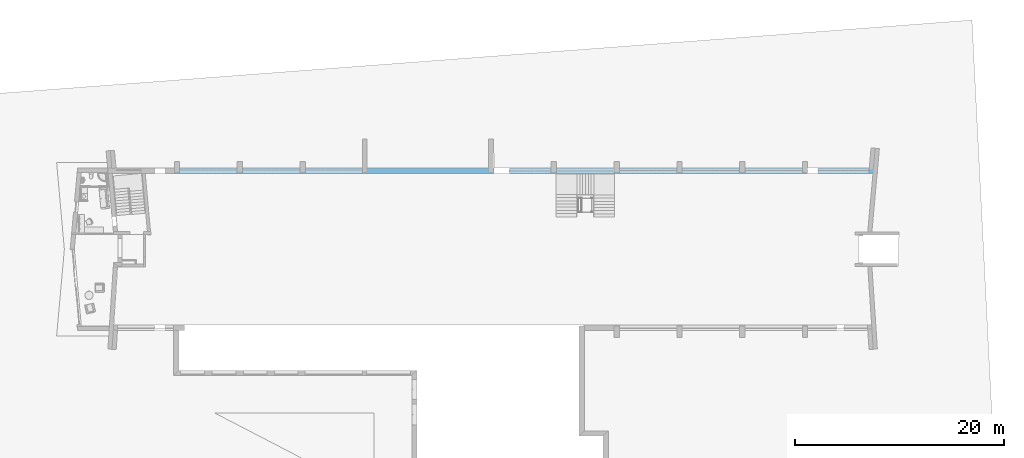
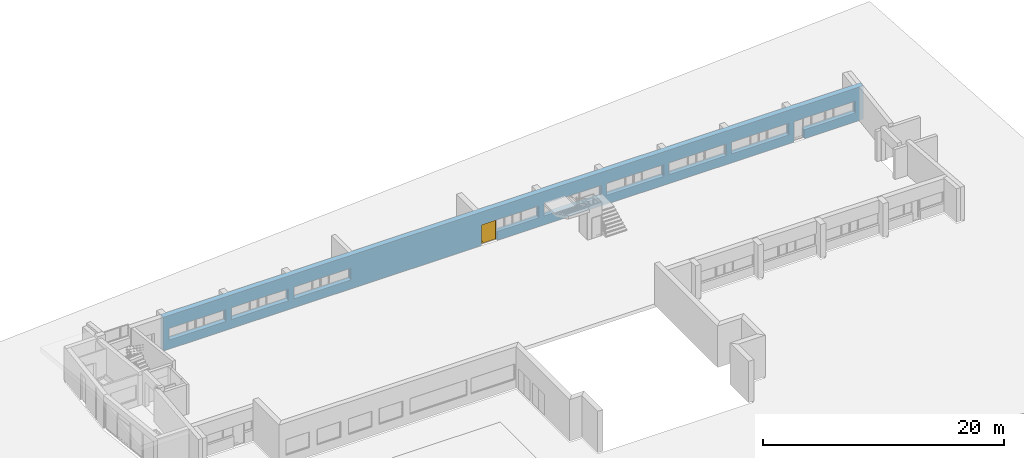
# One storey, part 26 of 36: 1 door, 20 openings, plus 1 element that does not belong to this part.
"""IFC2X3 building model written with IfcOpenShell, lengths in millimetres."""

from ifc_helpers import new_model, entity, si_unit, converted_unit, money_unit, direction, frame, origin_with_axes, place, context, subcontext, project, spatial, polyline, outline, extrude, open_shell, faceted_brep, surface_model, material, material_list, layer, layer_set, layer_usage, type_object, element, fill, save


model = new_model("IFC2X3")

# Units and contexts
model_context = context("Model", 3, precision=1e-05, world=origin_with_axes(), true_north=direction((0.0, 1.0)))
body_context = subcontext(model_context, "Body", "Model", "MODEL_VIEW")
ifc_project = project(units=[si_unit("LENGTHUNIT", "METRE", prefix="MILLI"), si_unit("AREAUNIT", "SQUARE_METRE"), si_unit("VOLUMEUNIT", "CUBIC_METRE"), converted_unit("PLANEANGLEUNIT", "DEGREE", entity("IfcPlaneAngleMeasure", 0.0174532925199), si_unit("PLANEANGLEUNIT", "RADIAN"), dimensions=[0, 0, 0, 0, 0, 0, 0]), si_unit("SOLIDANGLEUNIT", "STERADIAN"), money_unit("USD"), converted_unit("TIMEUNIT", "Year", entity("IfcTimeMeasure", 31556926.0), si_unit("TIMEUNIT", "SECOND"), dimensions=[0, 0, 0, 0, 0, 0, 0]), si_unit("MASSUNIT", "GRAM"), si_unit("THERMODYNAMICTEMPERATUREUNIT", "DEGREE_CELSIUS"), si_unit("LUMINOUSINTENSITYUNIT", "LUMEN")], contexts=[model_context])

# Site, building, storey
site_placement = place(None, origin_with_axes())
site = spatial("IfcSite", under=ifc_project, at=site_placement, Name="Site", CompositionType="ELEMENT")
building_placement = place(site_placement, origin_with_axes())
building = spatial("IfcBuilding", under=site, at=building_placement, Name="Building", CompositionType="ELEMENT")
storey_placement = place(building_placement, frame((0.0, 0.0, -3400.0), z_axis=(0.0, 0.0, 1.0), x_axis=(1.0, 0.0, 0.0)))
storey = spatial("IfcBuildingStorey", under=building, at=storey_placement, Name="1KORRUS", CompositionType="ELEMENT", Elevation=-3400.0)

# Wall, openings, door
ifc_material_1 = material(Name="Olemasolevad seinad tellis, uus viimistlus")
ifc_layer = layer(ifc_material_1, 500.0, ventilated="UNKNOWN")
ifc_layer_set = layer_set([ifc_layer], Name="Olemasolevad seinad tellis, uus viimistlus 500")
ifc_layer_usage = layer_usage(ifc_layer_set, "AXIS2", "POSITIVE", -100.0)
wall_type = type_object("IfcWallType", Name="Olemasolevad seinad tellis, uus viimistlus 500", PredefinedType="NOTDEFINED")
wall_placement = place(storey_placement, frame((-48393.8274049, -5039.6041088, 0.0), z_axis=(0.0, 0.0, 1.0), x_axis=(1.0, 0.0, 0.0)))
wall = element("IfcWallStandardCase", 1, at=wall_placement, inside=storey, type_object=wall_type, material=ifc_layer_usage, Name="VS1", ObjectType="VS1", context=body_context, shape_type="SweptSolid", body=[
    extrude(outline(polyline([(0.0, -100.0), (67149.8194303, -100.0), (67149.8194303, 400.0), (0.0, 400.0), (0.0, -100.0)])), origin_with_axes(), (0.0, 0.0, 1.0), 3400.0),
])
opening_1_placement = place(wall_placement, frame((1878.53070154, 0.0, 900.0), z_axis=(0.0, 0.0, 1.0), x_axis=(1.0, 0.0, 0.0)))
element("IfcOpeningElement", 2, at=opening_1_placement, cuts=wall, Name="Olemasolevad aknad jäävad", context=body_context, shape_type="SweptSolid", body=[
    extrude(outline(polyline([(-1375.0, 1200.0), (-1375.0, 0.0), (1375.0, 0.0), (1375.0, 1200.0), (-1375.0, 1200.0)])), frame((0.0, 250.0, 0.0), z_axis=(0.0, -1.0, 0.0), x_axis=(1.0, 0.0, 0.0)), (0.0, 0.0, 1.0), 850.0),
    extrude(outline(polyline([(-1375.0, 0.0), (-1375.0, -1200.0), (1375.0, -1200.0), (1375.0, 0.0), (-1375.0, 0.0)])), frame((0.0, 250.0, 0.0), z_axis=(0.0, 1.0, 0.0), x_axis=(1.0, 0.0, 0.0)), (0.0, 0.0, 1.0), 650.0),
])
opening_2_placement = place(wall_placement, frame((7878.53070154, 0.0, 900.0), z_axis=(0.0, 0.0, 1.0), x_axis=(1.0, 0.0, 0.0)))
element("IfcOpeningElement", 3, at=opening_2_placement, cuts=wall, Name="Olemasolevad aknad jäävad", context=body_context, shape_type="SweptSolid", body=[
    extrude(outline(polyline([(-1375.0, 1200.0), (-1375.0, 0.0), (1375.0, 0.0), (1375.0, 1200.0), (-1375.0, 1200.0)])), frame((0.0, 250.0, 0.0), z_axis=(0.0, -1.0, 0.0), x_axis=(1.0, 0.0, 0.0)), (0.0, 0.0, 1.0), 850.0),
    extrude(outline(polyline([(-1375.0, 0.0), (-1375.0, -1200.0), (1375.0, -1200.0), (1375.0, 0.0), (-1375.0, 0.0)])), frame((0.0, 250.0, 0.0), z_axis=(0.0, 1.0, 0.0), x_axis=(1.0, 0.0, 0.0)), (0.0, 0.0, 1.0), 650.0),
])
opening_3_placement = place(wall_placement, frame((13878.5307015, 0.0, 900.0), z_axis=(0.0, 0.0, 1.0), x_axis=(1.0, 0.0, 0.0)))
element("IfcOpeningElement", 4, at=opening_3_placement, cuts=wall, Name="Olemasolevad aknad jäävad", context=body_context, shape_type="SweptSolid", body=[
    extrude(outline(polyline([(-1375.0, 1200.0), (-1375.0, 0.0), (1375.0, 0.0), (1375.0, 1200.0), (-1375.0, 1200.0)])), frame((0.0, 250.0, 0.0), z_axis=(0.0, -1.0, 0.0), x_axis=(1.0, 0.0, 0.0)), (0.0, 0.0, 1.0), 850.0),
    extrude(outline(polyline([(-1375.0, 0.0), (-1375.0, -1200.0), (1375.0, -1200.0), (1375.0, 0.0), (-1375.0, 0.0)])), frame((0.0, 250.0, 0.0), z_axis=(0.0, 1.0, 0.0), x_axis=(1.0, 0.0, 0.0)), (0.0, 0.0, 1.0), 650.0),
])
opening_4_placement = place(wall_placement, frame((4628.53070154, 0.0, 900.0), z_axis=(0.0, 0.0, 1.0), x_axis=(1.0, 0.0, 0.0)))
element("IfcOpeningElement", 5, at=opening_4_placement, cuts=wall, Name="Olemasolevad aknad jäävad", context=body_context, shape_type="SweptSolid", body=[
    extrude(outline(polyline([(1375.0, 1200.0), (-1375.0, 1200.0), (-1375.0, 0.0), (1375.0, 0.0), (1375.0, 1200.0)])), frame((0.0, 250.0, 0.0), z_axis=(0.0, -1.0, 0.0), x_axis=(1.0, 0.0, 0.0)), (0.0, 0.0, 1.0), 850.0),
    extrude(outline(polyline([(1375.0, 0.0), (-1375.0, 0.0), (-1375.0, -1200.0), (1375.0, -1200.0), (1375.0, 0.0)])), frame((0.0, 250.0, 0.0), z_axis=(0.0, 1.0, 0.0), x_axis=(1.0, 0.0, 0.0)), (0.0, 0.0, 1.0), 650.0),
])
opening_5_placement = place(wall_placement, frame((10628.5307015, 0.0, 900.0), z_axis=(0.0, 0.0, 1.0), x_axis=(1.0, 0.0, 0.0)))
element("IfcOpeningElement", 6, at=opening_5_placement, cuts=wall, Name="Olemasolevad aknad jäävad", context=body_context, shape_type="SweptSolid", body=[
    extrude(outline(polyline([(1375.0, 1200.0), (-1375.0, 1200.0), (-1375.0, 0.0), (1375.0, 0.0), (1375.0, 1200.0)])), frame((0.0, 250.0, 0.0), z_axis=(0.0, -1.0, 0.0), x_axis=(1.0, 0.0, 0.0)), (0.0, 0.0, 1.0), 850.0),
    extrude(outline(polyline([(1375.0, 0.0), (-1375.0, 0.0), (-1375.0, -1200.0), (1375.0, -1200.0), (1375.0, 0.0)])), frame((0.0, 250.0, 0.0), z_axis=(0.0, 1.0, 0.0), x_axis=(1.0, 0.0, 0.0)), (0.0, 0.0, 1.0), 650.0),
])
opening_6_placement = place(wall_placement, frame((16616.9651775, 0.0, 900.0), z_axis=(0.0, 0.0, 1.0), x_axis=(1.0, 0.0, 0.0)))
element("IfcOpeningElement", 7, at=opening_6_placement, cuts=wall, Name="Olemasolevad aknad jäävad", context=body_context, shape_type="SweptSolid", body=[
    extrude(outline(polyline([(1375.0, 1200.0), (-1375.0, 1200.0), (-1375.0, 0.0), (1375.0, 0.0), (1375.0, 1200.0)])), frame((0.0, 250.0, 0.0), z_axis=(0.0, -1.0, 0.0), x_axis=(1.0, 0.0, 0.0)), (0.0, 0.0, 1.0), 850.0),
    extrude(outline(polyline([(1375.0, 0.0), (-1375.0, 0.0), (-1375.0, -1200.0), (1375.0, -1200.0), (1375.0, 0.0)])), frame((0.0, 250.0, 0.0), z_axis=(0.0, 1.0, 0.0), x_axis=(1.0, 0.0, 0.0)), (0.0, 0.0, 1.0), 650.0),
])
opening_7_placement = place(wall_placement, frame((34803.5307015, 0.0, 900.0), z_axis=(0.0, 0.0, 1.0), x_axis=(1.0, 0.0, 0.0)))
element("IfcOpeningElement", 8, at=opening_7_placement, cuts=wall, Name="Olemasolevad aknad jäävad", context=body_context, shape_type="SweptSolid", body=[
    extrude(outline(polyline([(1200.0, 0.0), (-1200.0, 0.0), (-1200.0, -1200.0), (1200.0, -1200.0), (1200.0, 0.0)])), frame((0.0, 100.0, 0.0), z_axis=(0.0, 1.0, 0.0), x_axis=(1.0, 0.0, 0.0)), (0.0, 0.0, 1.0), 800.0),
    extrude(outline(polyline([(1200.0, 1200.0), (-1200.0, 1200.0), (-1200.0, 0.0), (1200.0, 0.0), (1200.0, 1200.0)])), frame((0.0, 100.0, 0.0), z_axis=(0.0, -1.0, 0.0), x_axis=(1.0, 0.0, 0.0)), (0.0, 0.0, 1.0), 700.0),
])
opening_8_placement = place(wall_placement, frame((40625.1633636, 0.0, 900.0), z_axis=(0.0, 0.0, 1.0), x_axis=(1.0, 0.0, 0.0)))
element("IfcOpeningElement", 9, at=opening_8_placement, cuts=wall, Name="Olemasolevad aknad jäävad", context=body_context, shape_type="SweptSolid", body=[
    extrude(outline(polyline([(1400.0, 0.0), (-1400.0, 0.0), (-1400.0, -1200.0), (1400.0, -1200.0), (1400.0, 0.0)])), frame((0.0, 100.0, 0.0), z_axis=(0.0, 1.0, 0.0), x_axis=(1.0, 0.0, 0.0)), (0.0, 0.0, 1.0), 800.0),
    extrude(outline(polyline([(1400.0, 1200.0), (-1400.0, 1200.0), (-1400.0, 0.0), (1400.0, 0.0), (1400.0, 1200.0)])), frame((0.0, 100.0, 0.0), z_axis=(0.0, -1.0, 0.0), x_axis=(1.0, 0.0, 0.0)), (0.0, 0.0, 1.0), 700.0),
])
opening_9_placement = place(wall_placement, frame((37871.3218818, 0.0, 900.0), z_axis=(0.0, 0.0, 1.0), x_axis=(1.0, 0.0, 0.0)))
element("IfcOpeningElement", 10, at=opening_9_placement, cuts=wall, Name="Olemasolevad aknad jäävad", context=body_context, shape_type="SweptSolid", body=[
    extrude(outline(polyline([(-1367.791, 0.0), (-1367.791, -1200.0), (1367.791, -1200.0), (1367.791, 0.0), (-1367.791, 0.0)])), frame((0.0, 150.0, 0.0), z_axis=(0.0, 1.0, 0.0), x_axis=(1.0, 0.0, 0.0)), (0.0, 0.0, 1.0), 750.0),
    extrude(outline(polyline([(-1367.791, 1200.0), (-1367.791, 0.0), (1367.791, 0.0), (1367.791, 1200.0), (-1367.791, 1200.0)])), frame((0.0, 150.0, 0.0), z_axis=(0.0, -1.0, 0.0), x_axis=(1.0, 0.0, 0.0)), (0.0, 0.0, 1.0), 750.0),
])
opening_10_placement = place(wall_placement, frame((46628.5307015, 0.0, 900.0), z_axis=(0.0, 0.0, 1.0), x_axis=(1.0, 0.0, 0.0)))
element("IfcOpeningElement", 11, at=opening_10_placement, cuts=wall, Name="Olemasolevad aknad jäävad", context=body_context, shape_type="SweptSolid", body=[
    extrude(outline(polyline([(1375.0, 1200.0), (-1375.0, 1200.0), (-1375.0, 0.0), (1375.0, 0.0), (1375.0, 1200.0)])), frame((0.0, 150.0, 0.0), z_axis=(0.0, -1.0, 0.0), x_axis=(1.0, 0.0, 0.0)), (0.0, 0.0, 1.0), 750.0),
    extrude(outline(polyline([(1375.0, 0.0), (-1375.0, 0.0), (-1375.0, -1200.0), (1375.0, -1200.0), (1375.0, 0.0)])), frame((0.0, 150.0, 0.0), z_axis=(0.0, 1.0, 0.0), x_axis=(1.0, 0.0, 0.0)), (0.0, 0.0, 1.0), 750.0),
])
opening_11_placement = place(wall_placement, frame((43878.5307015, 0.0, 900.0), z_axis=(0.0, 0.0, 1.0), x_axis=(1.0, 0.0, 0.0)))
element("IfcOpeningElement", 12, at=opening_11_placement, cuts=wall, Name="Olemasolevad aknad jäävad", context=body_context, shape_type="SweptSolid", body=[
    extrude(outline(polyline([(-1375.0, 1200.0), (-1375.0, 0.0), (1375.0, 0.0), (1375.0, 1200.0), (-1375.0, 1200.0)])), frame((0.0, 200.0, 0.0), z_axis=(0.0, -1.0, 0.0), x_axis=(1.0, 0.0, 0.0)), (0.0, 0.0, 1.0), 800.0),
    extrude(outline(polyline([(-1375.0, 0.0), (-1375.0, -1200.0), (1375.0, -1200.0), (1375.0, 0.0), (-1375.0, 0.0)])), frame((0.0, 200.0, 0.0), z_axis=(0.0, 1.0, 0.0), x_axis=(1.0, 0.0, 0.0)), (0.0, 0.0, 1.0), 700.0),
])
opening_12_placement = place(wall_placement, frame((52635.3834465, 0.0, 900.0), z_axis=(0.0, 0.0, 1.0), x_axis=(1.0, 0.0, 0.0)))
element("IfcOpeningElement", 13, at=opening_12_placement, cuts=wall, Name="Olemasolevad aknad jäävad", context=body_context, shape_type="SweptSolid", body=[
    extrude(outline(polyline([(1376.809, 1200.0), (-1376.809, 1200.0), (-1376.809, 0.0), (1376.809, 0.0), (1376.809, 1200.0)])), frame((0.0, 150.0, 0.0), z_axis=(0.0, -1.0, 0.0), x_axis=(1.0, 0.0, 0.0)), (0.0, 0.0, 1.0), 750.0),
    extrude(outline(polyline([(1376.809, 0.0), (-1376.809, 0.0), (-1376.809, -1200.0), (1376.809, -1200.0), (1376.809, 0.0)])), frame((0.0, 150.0, 0.0), z_axis=(0.0, 1.0, 0.0), x_axis=(1.0, 0.0, 0.0)), (0.0, 0.0, 1.0), 750.0),
])
opening_13_placement = place(wall_placement, frame((49883.9987013, 0.0, 900.0), z_axis=(0.0, 0.0, 1.0), x_axis=(1.0, 0.0, 0.0)))
element("IfcOpeningElement", 14, at=opening_13_placement, cuts=wall, Name="Olemasolevad aknad jäävad", context=body_context, shape_type="SweptSolid", body=[
    extrude(outline(polyline([(-1375.0, 1200.0), (-1375.0, 0.0), (1375.0, 0.0), (1375.0, 1200.0), (-1375.0, 1200.0)])), frame((0.0, 200.0, 0.0), z_axis=(0.0, -1.0, 0.0), x_axis=(1.0, 0.0, 0.0)), (0.0, 0.0, 1.0), 800.0),
    extrude(outline(polyline([(-1375.0, 0.0), (-1375.0, -1200.0), (1375.0, -1200.0), (1375.0, 0.0), (-1375.0, 0.0)])), frame((0.0, 200.0, 0.0), z_axis=(0.0, 1.0, 0.0), x_axis=(1.0, 0.0, 0.0)), (0.0, 0.0, 1.0), 700.0),
])
opening_14_placement = place(wall_placement, frame((58631.8843372, 0.0, 900.0), z_axis=(0.0, 0.0, 1.0), x_axis=(1.0, 0.0, 0.0)))
element("IfcOpeningElement", 15, at=opening_14_placement, cuts=wall, Name="Olemasolevad aknad jäävad", context=body_context, shape_type="SweptSolid", body=[
    extrude(outline(polyline([(1371.646, 1200.0), (-1371.646, 1200.0), (-1371.646, 0.0), (1371.646, 0.0), (1371.646, 1200.0)])), frame((0.0, 150.0, 0.0), z_axis=(0.0, -1.0, 0.0), x_axis=(1.0, 0.0, 0.0)), (0.0, 0.0, 1.0), 750.0),
    extrude(outline(polyline([(1371.646, 0.0), (-1371.646, 0.0), (-1371.646, -1200.0), (1371.646, -1200.0), (1371.646, 0.0)])), frame((0.0, 150.0, 0.0), z_axis=(0.0, 1.0, 0.0), x_axis=(1.0, 0.0, 0.0)), (0.0, 0.0, 1.0), 750.0),
])
opening_15_placement = place(wall_placement, frame((55886.6217615, 0.0, 900.0), z_axis=(0.0, 0.0, 1.0), x_axis=(1.0, 0.0, 0.0)))
element("IfcOpeningElement", 16, at=opening_15_placement, cuts=wall, Name="Olemasolevad aknad jäävad", context=body_context, shape_type="SweptSolid", body=[
    extrude(outline(polyline([(-1375.0, 1200.0), (-1375.0, 0.0), (1375.0, 0.0), (1375.0, 1200.0), (-1375.0, 1200.0)])), frame((0.0, 200.0, 0.0), z_axis=(0.0, -1.0, 0.0), x_axis=(1.0, 0.0, 0.0)), (0.0, 0.0, 1.0), 800.0),
    extrude(outline(polyline([(-1375.0, 0.0), (-1375.0, -1200.0), (1375.0, -1200.0), (1375.0, 0.0), (-1375.0, 0.0)])), frame((0.0, 200.0, 0.0), z_axis=(0.0, 1.0, 0.0), x_axis=(1.0, 0.0, 0.0)), (0.0, 0.0, 1.0), 700.0),
])
opening_16_placement = place(wall_placement, frame((64995.2517085, 0.0, 900.0), z_axis=(0.0, 0.0, 1.0), x_axis=(1.0, 0.0, 0.0)))
element("IfcOpeningElement", 17, at=opening_16_placement, cuts=wall, Name="Olemasolevad aknad jäävad", context=body_context, shape_type="SweptSolid", body=[
    extrude(outline(polyline([(1375.0, 1200.0), (-1375.0, 1200.0), (-1375.0, 0.0), (1375.0, 0.0), (1375.0, 1200.0)])), frame((0.0, 150.0, 0.0), z_axis=(0.0, -1.0, 0.0), x_axis=(1.0, 0.0, 0.0)), (0.0, 0.0, 1.0), 750.0),
    extrude(outline(polyline([(1375.0, 0.0), (-1375.0, 0.0), (-1375.0, -1200.0), (1375.0, -1200.0), (1375.0, 0.0)])), frame((0.0, 150.0, 0.0), z_axis=(0.0, 1.0, 0.0), x_axis=(1.0, 0.0, 0.0)), (0.0, 0.0, 1.0), 750.0),
])
opening_17_placement = place(wall_placement, frame((32810.8244307, 0.0, 900.0), z_axis=(0.0, 0.0, 1.0), x_axis=(1.0, 0.0, 0.0)))
element("IfcOpeningElement", 18, at=opening_17_placement, cuts=wall, Name="Olemasolevad aknad jäävad", context=body_context, shape_type="SweptSolid", body=[
    extrude(outline(polyline([(792.706, 0.0), (-792.706, 0.0), (-792.706, -1200.0), (792.706, -1200.0), (792.706, 0.0)])), frame((0.0, 100.0, 0.0), z_axis=(0.0, 1.0, 0.0), x_axis=(1.0, 0.0, 0.0)), (0.0, 0.0, 1.0), 800.0),
    extrude(outline(polyline([(792.706, 1200.0), (-792.706, 1200.0), (-792.706, 0.0), (792.706, 0.0), (792.706, 1200.0)])), frame((0.0, 100.0, 0.0), z_axis=(0.0, -1.0, 0.0), x_axis=(1.0, 0.0, 0.0)), (0.0, 0.0, 1.0), 700.0),
])
opening_18_placement = place(wall_placement, frame((62561.891205, 0.0, 900.0), z_axis=(0.0, 0.0, 1.0), x_axis=(1.0, 0.0, 0.0)))
element("IfcOpeningElement", 19, at=opening_18_placement, cuts=wall, Name="Olemasolevad aknad jäävad", context=body_context, shape_type="SweptSolid", body=[
    extrude(outline(polyline([(1058.361, 1200.0), (-1058.361, 1200.0), (-1058.361, 0.0), (1058.361, 0.0), (1058.361, 1200.0)])), frame((0.0, 150.0, 0.0), z_axis=(0.0, -1.0, 0.0), x_axis=(1.0, 0.0, 0.0)), (0.0, 0.0, 1.0), 750.0),
    extrude(outline(polyline([(1058.361, 0.0), (-1058.361, 0.0), (-1058.361, -1200.0), (1058.361, -1200.0), (1058.361, 0.0)])), frame((0.0, 150.0, 0.0), z_axis=(0.0, 1.0, 0.0), x_axis=(1.0, 0.0, 0.0)), (0.0, 0.0, 1.0), 750.0),
])
opening_19_placement = place(wall_placement, frame((61003.5307015, 0.0, -4.66441168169), z_axis=(0.0, 0.0, 1.0), x_axis=(1.0, 0.0, 0.0)))
element("IfcOpeningElement", 20, at=opening_19_placement, cuts=wall, Name="ava", context=body_context, shape_type="SweptSolid", body=[
    extrude(outline(polyline([(-500.0, 2100.0), (-500.0, 0.0), (500.0, 0.0), (500.0, 2100.0), (-500.0, 2100.0)])), frame((0.0, 200.0, 0.0), z_axis=(0.0, 1.0, 0.0), x_axis=(-1.0, 0.0, 0.0)), (0.0, 0.0, -1.0), 800.0),
    extrude(outline(polyline([(-500.0, 0.0), (-500.0, -2100.0), (500.0, -2100.0), (500.0, 0.0), (-500.0, 0.0)])), frame((0.0, 200.0, 0.0), z_axis=(0.0, -1.0, 0.0), x_axis=(-1.0, 0.0, 0.0)), (0.0, 0.0, -1.0), 700.0),
])
opening_20_placement = place(wall_placement, frame((31268.1181599, 0.0, 0.0), z_axis=(0.0, 0.0, 1.0), x_axis=(1.0, 0.0, 0.0)))
opening_20 = element("IfcOpeningElement", 21, at=opening_20_placement, cuts=wall, Name="ava", context=body_context, shape_type="SweptSolid", body=[
    extrude(outline(polyline([(-750.0, 2100.0), (-750.0, 0.0), (750.0, 0.0), (750.0, 2100.0), (-750.0, 2100.0)])), frame((0.0, 200.0, 0.0), z_axis=(0.0, -1.0, 0.0), x_axis=(1.0, 0.0, 0.0)), (0.0, 0.0, 1.0), 800.0),
    extrude(outline(polyline([(-750.0, 0.0), (-750.0, -2100.0), (750.0, -2100.0), (750.0, 0.0), (-750.0, 0.0)])), frame((0.0, 200.0, 0.0), z_axis=(0.0, 1.0, 0.0), x_axis=(1.0, 0.0, 0.0)), (0.0, 0.0, 1.0), 700.0),
])
ifc_material_2 = material(Name="Background")
ifc_material_list = material_list([ifc_material_2])
door_style = type_object("IfcDoorStyle", Name="Double Door 19", ConstructionType="NOTDEFINED", OperationType="DOUBLE_DOOR_SINGLE_SWING", ParameterTakesPrecedence=False, Sizeable=False)
door_placement = place(opening_20_placement, frame((-750.0, 0.0, 0.0), z_axis=(0.0, 0.0, 1.0), x_axis=(1.0, 0.0, 0.0)))
door = element("IfcDoor", 22, at=door_placement, inside=storey, type_object=door_style, material=ifc_material_list, Name="ava", ObjectType="door", OverallHeight=2100.0, OverallWidth=1500.0, context=body_context, shape_type="SurfaceModel", body=[
    faceted_brep([(40.0, 160.0, 0.0), (40.0, 160.0, 2060.0), (40.0, 85.0, 2060.0), (40.0, 85.0, 0.0), (28.0, 160.0, 2060.0), (28.0, 160.0, 0.0), (28.0, 200.0, 2060.0), (0.0, 200.0, 2060.0), (0.0, 85.0, 2060.0), (0.0, 85.0, 0.0), (0.0, 200.0, 0.0), (28.0, 200.0, 0.0)], [[[0, 1, 2, 3]], [[4, 1, 0, 5]], [[4, 6, 7, 8, 2, 1]], [[2, 8, 9, 3]], [[5, 0, 3, 9, 10, 11]], [[6, 4, 5, 11]], [[6, 11, 10, 7]], [[9, 8, 7, 10]]]),
    faceted_brep([(1472.0, 160.0, 2060.0), (1460.0, 160.0, 2060.0), (1460.0, 85.0, 2060.0), (1500.0, 85.0, 2060.0), (1500.0, 200.0, 2060.0), (1472.0, 200.0, 2060.0), (1472.0, 160.0, 0.0), (1460.0, 160.0, 0.0), (1460.0, 85.0, 0.0), (1500.0, 85.0, 0.0), (1500.0, 200.0, 0.0), (1472.0, 200.0, 0.0)], [[[0, 1, 2, 3, 4, 5]], [[1, 0, 6, 7]], [[1, 7, 8, 2]], [[2, 8, 9, 3]], [[3, 9, 10, 4]], [[11, 5, 4, 10]], [[0, 5, 11, 6]], [[6, 11, 10, 9, 8, 7]]]),
    faceted_brep([(28.0, 200.0, 2072.0), (28.0, 200.0, 2060.0), (0.0, 200.0, 2060.0), (0.0, 200.0, 2100.0), (1500.0, 200.0, 2100.0), (1500.0, 200.0, 2060.0), (1472.0, 200.0, 2060.0), (1472.0, 200.0, 2072.0), (28.0, 160.0, 2072.0), (28.0, 160.0, 2060.0), (40.0, 160.0, 2060.0), (40.0, 85.0, 2060.0), (0.0, 85.0, 2060.0), (0.0, 85.0, 2100.0), (1500.0, 85.0, 2100.0), (1500.0, 85.0, 2060.0), (1472.0, 160.0, 2060.0), (1460.0, 85.0, 2060.0), (1460.0, 160.0, 2060.0), (1472.0, 160.0, 2072.0)], [[[0, 1, 2, 3, 4, 5, 6, 7]], [[1, 0, 8, 9]], [[9, 10, 11, 12, 2, 1]], [[12, 13, 3, 2]], [[13, 14, 4, 3]], [[14, 15, 5, 4]], [[16, 6, 5, 15, 17, 18]], [[7, 6, 16, 19]], [[0, 7, 19, 8]], [[16, 18, 10, 9, 8, 19]], [[10, 18, 17, 11]], [[15, 14, 13, 12, 11, 17]]]),
    faceted_brep([(1472.0, 200.0, 200.0), (1472.0, 160.0, 200.0), (1372.0, 160.0, 200.0), (1372.0, 200.0, 200.0), (1472.0, 200.0, 1972.0), (1472.0, 160.0, 1972.0), (1372.0, 160.0, 1972.0), (1372.0, 200.0, 1972.0)], [[[0, 1, 2, 3]], [[4, 5, 1, 0]], [[1, 5, 6, 2]], [[3, 2, 6, 7]], [[0, 3, 7, 4]], [[7, 6, 5, 4]]]),
    faceted_brep([(750.0, 200.0, 200.0), (750.0, 160.0, 200.0), (750.0, 160.0, 1972.0), (750.0, 200.0, 1972.0), (850.0, 200.0, 200.0), (850.0, 160.0, 200.0), (850.0, 160.0, 1972.0), (850.0, 200.0, 1972.0)], [[[0, 1, 2, 3]], [[4, 5, 1, 0]], [[1, 5, 6, 2]], [[3, 2, 6, 7]], [[0, 3, 7, 4]], [[7, 6, 5, 4]]]),
    faceted_brep([(1472.0, 200.0, 0.0), (1472.0, 160.0, 0.0), (750.0, 160.0, 0.0), (750.0, 200.0, 0.0), (1472.0, 200.0, 200.0), (1472.0, 160.0, 200.0), (1372.0, 160.0, 200.0), (850.0, 160.0, 200.0), (750.0, 160.0, 200.0), (750.0, 200.0, 200.0), (850.0, 200.0, 200.0), (1372.0, 200.0, 200.0)], [[[0, 1, 2, 3]], [[4, 5, 1, 0]], [[1, 5, 6, 7, 8, 2]], [[3, 2, 8, 9]], [[0, 3, 9, 10, 11, 4]], [[11, 6, 5, 4]], [[10, 7, 6, 11]], [[9, 8, 7, 10]]]),
    faceted_brep([(1472.0, 200.0, 2072.0), (1472.0, 160.0, 2072.0), (1472.0, 160.0, 1972.0), (1472.0, 200.0, 1972.0), (750.0, 200.0, 2072.0), (750.0, 160.0, 2072.0), (750.0, 160.0, 1972.0), (850.0, 160.0, 1972.0), (1372.0, 160.0, 1972.0), (1372.0, 200.0, 1972.0), (850.0, 200.0, 1972.0), (750.0, 200.0, 1972.0)], [[[0, 1, 2, 3]], [[4, 5, 1, 0]], [[1, 5, 6, 7, 8, 2]], [[3, 2, 8, 9]], [[0, 3, 9, 10, 11, 4]], [[11, 6, 5, 4]], [[10, 7, 6, 11]], [[9, 8, 7, 10]]]),
    surface_model("IfcShellBasedSurfaceModel", [(1372.0, 186.0, 200.0), (850.0, 186.0, 200.0), (850.0, 186.0, 1972.0), (1372.0, 186.0, 1972.0)], [open_shell([[[0, 1, 2, 3]]])]),
    surface_model("IfcShellBasedSurfaceModel", [(1372.0, 174.0, 200.0), (1372.0, 174.0, 1972.0), (850.0, 174.0, 1972.0), (850.0, 174.0, 200.0)], [open_shell([[[0, 1, 2, 3]]])]),
    faceted_brep([(28.0, 200.0, 200.0), (128.0, 200.0, 200.0), (128.0, 160.0, 200.0), (28.0, 160.0, 200.0), (28.0, 200.0, 1972.0), (128.0, 200.0, 1972.0), (128.0, 160.0, 1972.0), (28.0, 160.0, 1972.0)], [[[0, 1, 2, 3]], [[0, 4, 5, 1]], [[1, 5, 6, 2]], [[3, 2, 6, 7]], [[4, 0, 3, 7]], [[5, 4, 7, 6]]]),
    faceted_brep([(750.0, 200.0, 200.0), (750.0, 200.0, 1972.0), (750.0, 160.0, 1972.0), (750.0, 160.0, 200.0), (650.0, 200.0, 200.0), (650.0, 200.0, 1972.0), (650.0, 160.0, 1972.0), (650.0, 160.0, 200.0)], [[[0, 1, 2, 3]], [[0, 4, 5, 1]], [[1, 5, 6, 2]], [[3, 2, 6, 7]], [[4, 0, 3, 7]], [[5, 4, 7, 6]]]),
    faceted_brep([(28.0, 200.0, 0.0), (750.0, 200.0, 0.0), (750.0, 160.0, 0.0), (28.0, 160.0, 0.0), (28.0, 200.0, 200.0), (128.0, 200.0, 200.0), (650.0, 200.0, 200.0), (750.0, 200.0, 200.0), (750.0, 160.0, 200.0), (650.0, 160.0, 200.0), (128.0, 160.0, 200.0), (28.0, 160.0, 200.0)], [[[0, 1, 2, 3]], [[0, 4, 5, 6, 7, 1]], [[1, 7, 8, 2]], [[3, 2, 8, 9, 10, 11]], [[4, 0, 3, 11]], [[5, 4, 11, 10]], [[6, 5, 10, 9]], [[7, 6, 9, 8]]]),
    faceted_brep([(28.0, 200.0, 2072.0), (28.0, 200.0, 1972.0), (28.0, 160.0, 1972.0), (28.0, 160.0, 2072.0), (750.0, 200.0, 2072.0), (750.0, 200.0, 1972.0), (650.0, 200.0, 1972.0), (128.0, 200.0, 1972.0), (128.0, 160.0, 1972.0), (650.0, 160.0, 1972.0), (750.0, 160.0, 1972.0), (750.0, 160.0, 2072.0)], [[[0, 1, 2, 3]], [[0, 4, 5, 6, 7, 1]], [[1, 7, 8, 2]], [[3, 2, 8, 9, 10, 11]], [[4, 0, 3, 11]], [[5, 4, 11, 10]], [[6, 5, 10, 9]], [[7, 6, 9, 8]]]),
    surface_model("IfcShellBasedSurfaceModel", [(128.0, 186.0, 200.0), (128.0, 186.0, 1972.0), (650.0, 186.0, 1972.0), (650.0, 186.0, 200.0)], [open_shell([[[0, 1, 2, 3]]])]),
    surface_model("IfcShellBasedSurfaceModel", [(128.0, 174.0, 200.0), (650.0, 174.0, 200.0), (650.0, 174.0, 1972.0), (128.0, 174.0, 1972.0)], [open_shell([[[0, 1, 2, 3]]])]),
])
fill(opening_20, door)

save(model, "model.ifc")
